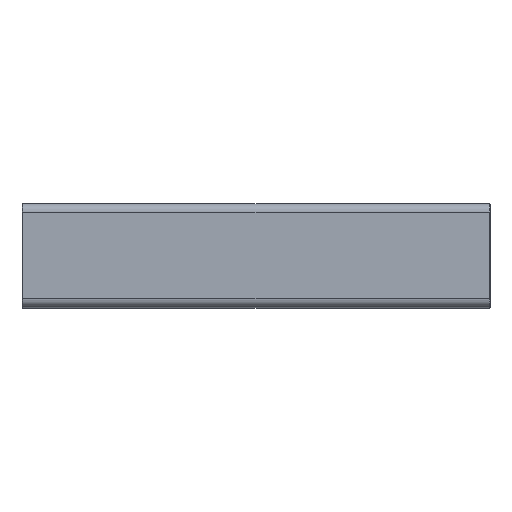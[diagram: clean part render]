
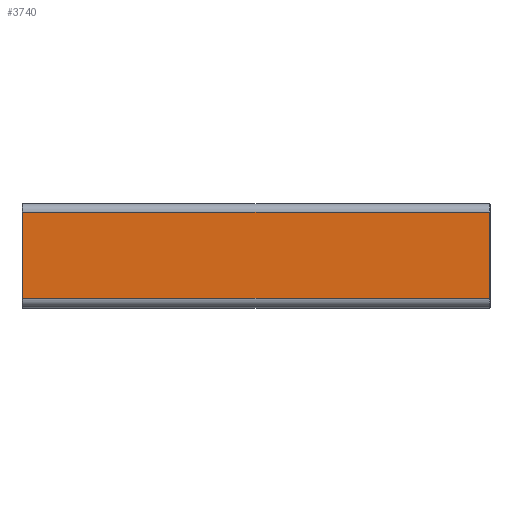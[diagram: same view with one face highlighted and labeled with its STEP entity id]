
A CAD part, top view. The second image highlights one B-rep face of the part: STEP entity #3740.
In plain terms, the highlighted planar face has unit normal (0, 0, 1).
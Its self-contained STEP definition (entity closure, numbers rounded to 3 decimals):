
#979 = PLANE('',#980);
#980 = AXIS2_PLACEMENT_3D('',#981,#982,#983);
#981 = CARTESIAN_POINT('',(-71.9,-27.,1.9));
#982 = DIRECTION('',(0.707,0.,-0.707)
  );
#983 = DIRECTION('',(0.,-1.,0.));
#1534 = PLANE('',#1535);
#1535 = AXIS2_PLACEMENT_3D('',#1536,#1537,#1538);
#1536 = CARTESIAN_POINT('',(71.9,-27.,1.9));
#1537 = DIRECTION('',(0.707,0.,0.707));
#1538 = DIRECTION('',(0.,-1.,0.));
#2048 = CYLINDRICAL_SURFACE('',#2049,2.5);
#2049 = AXIS2_PLACEMENT_3D('',#2050,#2051,#2052);
#2050 = CARTESIAN_POINT('',(-72.,-0.5,-0.5));
#2051 = DIRECTION('',(-1.,0.,0.));
#2052 = DIRECTION('',(0.,-1.,0.));
#2411 = VERTEX_POINT('',#2412);
#2412 = CARTESIAN_POINT('',(-71.8,-0.5,2.));
#2512 = VERTEX_POINT('',#2513);
#2513 = CARTESIAN_POINT('',(-71.8,-27.,2.));
#2532 = EDGE_CURVE('',#2512,#2411,#2533,.T.);
#2533 = SURFACE_CURVE('',#2534,(#2538,#2545),.PCURVE_S1.);
#2534 = LINE('',#2535,#2536);
#2535 = CARTESIAN_POINT('',(-71.8,-27.,2.));
#2536 = VECTOR('',#2537,1.);
#2537 = DIRECTION('',(0.,1.,0.));
#2538 = PCURVE('',#979,#2539);
#2539 = DEFINITIONAL_REPRESENTATION('',(#2540),#2544);
#2540 = LINE('',#2541,#2542);
#2541 = CARTESIAN_POINT('',(-0.,-0.141));
#2542 = VECTOR('',#2543,1.);
#2543 = DIRECTION('',(-1.,0.));
#2544 = ( GEOMETRIC_REPRESENTATION_CONTEXT(2) 
PARAMETRIC_REPRESENTATION_CONTEXT() REPRESENTATION_CONTEXT('2D SPACE',''
  ) );
#2545 = PCURVE('',#2546,#2551);
#2546 = PLANE('',#2547);
#2547 = AXIS2_PLACEMENT_3D('',#2548,#2549,#2550);
#2548 = CARTESIAN_POINT('',(-72.,-27.,2.));
#2549 = DIRECTION('',(0.,0.,1.));
#2550 = DIRECTION('',(0.,1.,0.));
#2551 = DEFINITIONAL_REPRESENTATION('',(#2552),#2556);
#2552 = LINE('',#2553,#2554);
#2553 = CARTESIAN_POINT('',(0.,-0.2));
#2554 = VECTOR('',#2555,1.);
#2555 = DIRECTION('',(1.,0.));
#2556 = ( GEOMETRIC_REPRESENTATION_CONTEXT(2) 
PARAMETRIC_REPRESENTATION_CONTEXT() REPRESENTATION_CONTEXT('2D SPACE',''
  ) );
#2651 = CYLINDRICAL_SURFACE('',#2652,3.);
#2652 = AXIS2_PLACEMENT_3D('',#2653,#2654,#2655);
#2653 = CARTESIAN_POINT('',(-72.,-27.,-1.));
#2654 = DIRECTION('',(-1.,-0.,0.));
#2655 = DIRECTION('',(0.,1.,0.));
#3134 = VERTEX_POINT('',#3135);
#3135 = CARTESIAN_POINT('',(71.8,-0.5,2.));
#3230 = VERTEX_POINT('',#3231);
#3231 = CARTESIAN_POINT('',(71.8,-27.,2.));
#3250 = EDGE_CURVE('',#3230,#3134,#3251,.T.);
#3251 = SURFACE_CURVE('',#3252,(#3256,#3263),.PCURVE_S1.);
#3252 = LINE('',#3253,#3254);
#3253 = CARTESIAN_POINT('',(71.8,-27.,2.));
#3254 = VECTOR('',#3255,1.);
#3255 = DIRECTION('',(0.,1.,0.));
#3256 = PCURVE('',#1534,#3257);
#3257 = DEFINITIONAL_REPRESENTATION('',(#3258),#3262);
#3258 = LINE('',#3259,#3260);
#3259 = CARTESIAN_POINT('',(-0.,-0.141));
#3260 = VECTOR('',#3261,1.);
#3261 = DIRECTION('',(-1.,0.));
#3262 = ( GEOMETRIC_REPRESENTATION_CONTEXT(2) 
PARAMETRIC_REPRESENTATION_CONTEXT() REPRESENTATION_CONTEXT('2D SPACE',''
  ) );
#3263 = PCURVE('',#2546,#3264);
#3264 = DEFINITIONAL_REPRESENTATION('',(#3265),#3269);
#3265 = LINE('',#3266,#3267);
#3266 = CARTESIAN_POINT('',(0.,-143.8));
#3267 = VECTOR('',#3268,1.);
#3268 = DIRECTION('',(1.,0.));
#3269 = ( GEOMETRIC_REPRESENTATION_CONTEXT(2) 
PARAMETRIC_REPRESENTATION_CONTEXT() REPRESENTATION_CONTEXT('2D SPACE',''
  ) );
#3663 = EDGE_CURVE('',#2411,#3134,#3664,.T.);
#3664 = SURFACE_CURVE('',#3665,(#3669,#3676),.PCURVE_S1.);
#3665 = LINE('',#3666,#3667);
#3666 = CARTESIAN_POINT('',(-72.,-0.5,2.));
#3667 = VECTOR('',#3668,1.);
#3668 = DIRECTION('',(1.,0.,0.));
#3669 = PCURVE('',#2048,#3670);
#3670 = DEFINITIONAL_REPRESENTATION('',(#3671),#3675);
#3671 = LINE('',#3672,#3673);
#3672 = CARTESIAN_POINT('',(1.571,0.));
#3673 = VECTOR('',#3674,1.);
#3674 = DIRECTION('',(0.,-1.));
#3675 = ( GEOMETRIC_REPRESENTATION_CONTEXT(2) 
PARAMETRIC_REPRESENTATION_CONTEXT() REPRESENTATION_CONTEXT('2D SPACE',''
  ) );
#3676 = PCURVE('',#2546,#3677);
#3677 = DEFINITIONAL_REPRESENTATION('',(#3678),#3682);
#3678 = LINE('',#3679,#3680);
#3679 = CARTESIAN_POINT('',(26.5,0.));
#3680 = VECTOR('',#3681,1.);
#3681 = DIRECTION('',(0.,-1.));
#3682 = ( GEOMETRIC_REPRESENTATION_CONTEXT(2) 
PARAMETRIC_REPRESENTATION_CONTEXT() REPRESENTATION_CONTEXT('2D SPACE',''
  ) );
#3740 = ADVANCED_FACE('',(#3741),#2546,.T.);
#3741 = FACE_BOUND('',#3742,.T.);
#3742 = EDGE_LOOP('',(#3743,#3764,#3765,#3766));
#3743 = ORIENTED_EDGE('',*,*,#3744,.T.);
#3744 = EDGE_CURVE('',#2512,#3230,#3745,.T.);
#3745 = SURFACE_CURVE('',#3746,(#3750,#3757),.PCURVE_S1.);
#3746 = LINE('',#3747,#3748);
#3747 = CARTESIAN_POINT('',(-72.,-27.,2.));
#3748 = VECTOR('',#3749,1.);
#3749 = DIRECTION('',(1.,0.,0.));
#3750 = PCURVE('',#2546,#3751);
#3751 = DEFINITIONAL_REPRESENTATION('',(#3752),#3756);
#3752 = LINE('',#3753,#3754);
#3753 = CARTESIAN_POINT('',(0.,0.));
#3754 = VECTOR('',#3755,1.);
#3755 = DIRECTION('',(0.,-1.));
#3756 = ( GEOMETRIC_REPRESENTATION_CONTEXT(2) 
PARAMETRIC_REPRESENTATION_CONTEXT() REPRESENTATION_CONTEXT('2D SPACE',''
  ) );
#3757 = PCURVE('',#2651,#3758);
#3758 = DEFINITIONAL_REPRESENTATION('',(#3759),#3763);
#3759 = LINE('',#3760,#3761);
#3760 = CARTESIAN_POINT('',(-1.571,0.));
#3761 = VECTOR('',#3762,1.);
#3762 = DIRECTION('',(-0.,-1.));
#3763 = ( GEOMETRIC_REPRESENTATION_CONTEXT(2) 
PARAMETRIC_REPRESENTATION_CONTEXT() REPRESENTATION_CONTEXT('2D SPACE',''
  ) );
#3764 = ORIENTED_EDGE('',*,*,#3250,.T.);
#3765 = ORIENTED_EDGE('',*,*,#3663,.F.);
#3766 = ORIENTED_EDGE('',*,*,#2532,.F.);
